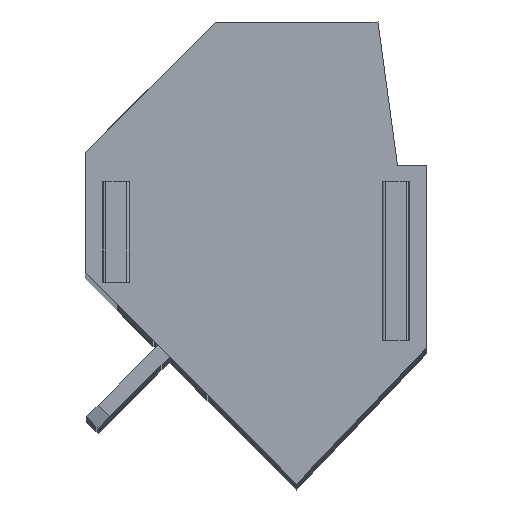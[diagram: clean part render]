
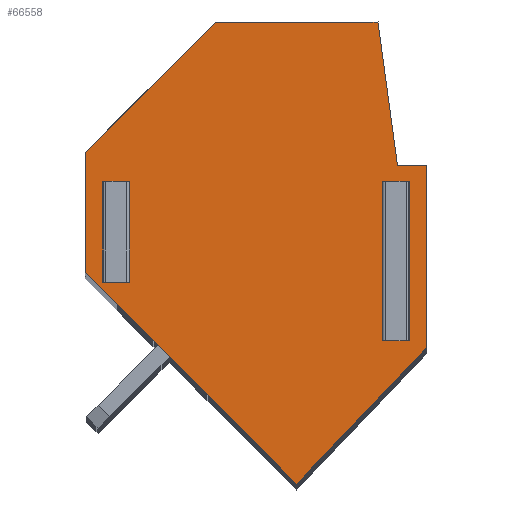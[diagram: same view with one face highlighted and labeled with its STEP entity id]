
A CAD part, top view. The second image highlights one B-rep face of the part: STEP entity #66558.
In plain terms, the highlighted planar face has unit normal (0, 0, 1).
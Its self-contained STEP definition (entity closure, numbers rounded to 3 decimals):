
#17520 = DIRECTION ( 'NONE',  ( 0.707, -0.707, 0. ) ) ;
#17521 = VECTOR ( 'NONE', #17520, 1000. ) ;
#17522 = CARTESIAN_POINT ( 'NONE',  ( -8.683, -2.307, 0. ) ) ;
#17523 = LINE ( 'NONE', #17522, #17521 ) ;
#17574 = CARTESIAN_POINT ( 'NONE',  ( -8.683, -2.307, 0. ) ) ;
#17730 = DIRECTION ( 'NONE',  ( 0., 1., 0. ) ) ;
#17731 = VECTOR ( 'NONE', #17730, 1000. ) ;
#17732 = CARTESIAN_POINT ( 'NONE',  ( 1.817, -8.807, 0. ) ) ;
#17733 = LINE ( 'NONE', #17732, #17731 ) ;
#17746 = DIRECTION ( 'NONE',  ( 0., -1., 0. ) ) ;
#17747 = VECTOR ( 'NONE', #17746, 1000. ) ;
#17749 = CARTESIAN_POINT ( 'NONE',  ( -8.683, -1.707, 0. ) ) ;
#17750 = LINE ( 'NONE', #17749, #17747 ) ;
#17831 = CARTESIAN_POINT ( 'NONE',  ( -8.683, 1.393, 0. ) ) ;
#23904 = VERTEX_POINT ( 'NONE', #79474 ) ;
#23972 = EDGE_CURVE ( 'NONE', #23996, #24105, #79537, .T. ) ;
#23996 = VERTEX_POINT ( 'NONE', #79590 ) ;
#24001 = EDGE_CURVE ( 'NONE', #24003, #23904, #79588, .T. ) ;
#24003 = VERTEX_POINT ( 'NONE', #79584 ) ;
#24015 = VERTEX_POINT ( 'NONE', #79567 ) ;
#24019 = EDGE_CURVE ( 'NONE', #24020, #24015, #79633, .T. ) ;
#24020 = VERTEX_POINT ( 'NONE', #79629 ) ;
#24051 = VERTEX_POINT ( 'NONE', #79658 ) ;
#24057 = VERTEX_POINT ( 'NONE', #79653 ) ;
#24059 = EDGE_CURVE ( 'NONE', #24060, #24057, #79652, .T. ) ;
#24060 = VERTEX_POINT ( 'NONE', #79648 ) ;
#24080 = EDGE_CURVE ( 'NONE', #24105, #24020, #79637, .T. ) ;
#24091 = EDGE_CURVE ( 'NONE', #24015, #23996, #79691, .T. ) ;
#24105 = VERTEX_POINT ( 'NONE', #79677 ) ;
#24136 = VERTEX_POINT ( 'NONE', #79717 ) ;
#24138 = EDGE_CURVE ( 'NONE', #24139, #24136, #79716, .T. ) ;
#24139 = VERTEX_POINT ( 'NONE', #79712 ) ;
#24150 = EDGE_CURVE ( 'NONE', #24170, #24051, #79763, .T. ) ;
#24166 = EDGE_CURVE ( 'NONE', #24051, #24060, #79752, .T. ) ;
#24170 = VERTEX_POINT ( 'NONE', #79740 ) ;
#24175 = EDGE_CURVE ( 'NONE', #24057, #24170, #79739, .T. ) ;
#25724 = CARTESIAN_POINT ( 'NONE',  ( -4.683, 5.393, 0. ) ) ;
#25726 = DIRECTION ( 'NONE',  ( -0.707, -0.707, 0. ) ) ;
#25727 = VECTOR ( 'NONE', #25726, 1000. ) ;
#25729 = CARTESIAN_POINT ( 'NONE',  ( -4.683, 5.393, 0. ) ) ;
#25731 = LINE ( 'NONE', #25729, #25727 ) ;
#28137 = VECTOR ( 'NONE', #28285, 1000. ) ;
#28139 = CARTESIAN_POINT ( 'NONE',  ( -4.683, 5.393, 0. ) ) ;
#28140 = LINE ( 'NONE', #28139, #28137 ) ;
#28146 = CARTESIAN_POINT ( 'NONE',  ( 0.317, 5.393, 0. ) ) ;
#28147 = DIRECTION ( 'NONE',  ( 0.135, -0.991, 0. ) ) ;
#28149 = VECTOR ( 'NONE', #28147, 1000. ) ;
#28151 = CARTESIAN_POINT ( 'NONE',  ( 0.617, 3.193, 0. ) ) ;
#28153 = LINE ( 'NONE', #28151, #28149 ) ;
#28259 = DIRECTION ( 'NONE',  ( 1., 0., 0. ) ) ;
#28261 = DIRECTION ( 'NONE',  ( 0., 0., 1. ) ) ;
#28263 = CARTESIAN_POINT ( 'NONE',  ( -8.683, -8.807, 0. ) ) ;
#28264 = AXIS2_PLACEMENT_3D ( 'NONE', #28263, #28261, #28259 ) ;
#28266 = PLANE ( 'NONE',  #28264 ) ;
#28271 = FACE_OUTER_BOUND ( 'NONE', #66545, .T. ) ;
#28272 = FACE_BOUND ( 'NONE', #66472, .T. ) ;
#28274 = FACE_BOUND ( 'NONE', #66559, .T. ) ;
#28285 = DIRECTION ( 'NONE',  ( 1., 0., 0. ) ) ;
#63983 = EDGE_CURVE ( 'NONE', #63984, #24003, #17523, .T. ) ;
#63984 = VERTEX_POINT ( 'NONE', #17574 ) ;
#64138 = EDGE_CURVE ( 'NONE', #23904, #24139, #17733, .T. ) ;
#64226 = EDGE_CURVE ( 'NONE', #64250, #63984, #17750, .T. ) ;
#64250 = VERTEX_POINT ( 'NONE', #17831 ) ;
#65811 = EDGE_CURVE ( 'NONE', #65812, #64250, #25731, .T. ) ;
#65812 = VERTEX_POINT ( 'NONE', #25724 ) ;
#66471 = ORIENTED_EDGE ( 'NONE', *, *, #24059, .T. ) ;
#66472 = EDGE_LOOP ( 'NONE', ( #66541, #66542, #66543, #66544 ) ) ;
#66526 = ORIENTED_EDGE ( 'NONE', *, *, #63983, .T. ) ;
#66528 = ORIENTED_EDGE ( 'NONE', *, *, #24001, .T. ) ;
#66529 = ORIENTED_EDGE ( 'NONE', *, *, #64138, .T. ) ;
#66530 = ORIENTED_EDGE ( 'NONE', *, *, #24138, .T. ) ;
#66540 = ORIENTED_EDGE ( 'NONE', *, *, #24175, .T. ) ;
#66541 = ORIENTED_EDGE ( 'NONE', *, *, #23972, .T. ) ;
#66542 = ORIENTED_EDGE ( 'NONE', *, *, #24080, .T. ) ;
#66543 = ORIENTED_EDGE ( 'NONE', *, *, #24019, .T. ) ;
#66544 = ORIENTED_EDGE ( 'NONE', *, *, #24091, .T. ) ;
#66545 = EDGE_LOOP ( 'NONE', ( #66546, #66549, #66551, #66552, #66526, #66528, #66529, #66530 ) ) ;
#66546 = ORIENTED_EDGE ( 'NONE', *, *, #66547, .F. ) ;
#66547 = EDGE_CURVE ( 'NONE', #66548, #24136, #28153, .T. ) ;
#66548 = VERTEX_POINT ( 'NONE', #28146 ) ;
#66549 = ORIENTED_EDGE ( 'NONE', *, *, #66550, .F. ) ;
#66550 = EDGE_CURVE ( 'NONE', #65812, #66548, #28140, .T. ) ;
#66551 = ORIENTED_EDGE ( 'NONE', *, *, #65811, .T. ) ;
#66552 = ORIENTED_EDGE ( 'NONE', *, *, #64226, .T. ) ;
#66558 = ADVANCED_FACE ( 'NONE', ( #28274, #28272, #28271 ), #28266, .T. ) ;
#66559 = EDGE_LOOP ( 'NONE', ( #66560, #66561, #66471, #66540 ) ) ;
#66560 = ORIENTED_EDGE ( 'NONE', *, *, #24150, .T. ) ;
#66561 = ORIENTED_EDGE ( 'NONE', *, *, #24166, .T. ) ;
#79474 = CARTESIAN_POINT ( 'NONE',  ( 1.817, -4.607, 0. ) ) ;
#79534 = DIRECTION ( 'NONE',  ( 0., 1., 0. ) ) ;
#79535 = VECTOR ( 'NONE', #79534, 1000. ) ;
#79536 = CARTESIAN_POINT ( 'NONE',  ( 0.667, -1.707, 0. ) ) ;
#79537 = LINE ( 'NONE', #79536, #79535 ) ;
#79567 = CARTESIAN_POINT ( 'NONE',  ( 1.067, -4.407, 0. ) ) ;
#79584 = CARTESIAN_POINT ( 'NONE',  ( -2.183, -8.807, 0. ) ) ;
#79585 = DIRECTION ( 'NONE',  ( 0.69, 0.724, 0. ) ) ;
#79586 = VECTOR ( 'NONE', #79585, 1000. ) ;
#79587 = CARTESIAN_POINT ( 'NONE',  ( -2.183, -8.807, 0. ) ) ;
#79588 = LINE ( 'NONE', #79587, #79586 ) ;
#79590 = CARTESIAN_POINT ( 'NONE',  ( 0.667, -4.407, 0. ) ) ;
#79629 = CARTESIAN_POINT ( 'NONE',  ( 1.067, 0.493, 0. ) ) ;
#79630 = DIRECTION ( 'NONE',  ( 0., -1., 0. ) ) ;
#79631 = VECTOR ( 'NONE', #79630, 1000. ) ;
#79632 = CARTESIAN_POINT ( 'NONE',  ( 1.067, -1.707, 0. ) ) ;
#79633 = LINE ( 'NONE', #79632, #79631 ) ;
#79634 = DIRECTION ( 'NONE',  ( 1., 0., 0. ) ) ;
#79635 = VECTOR ( 'NONE', #79634, 1000. ) ;
#79636 = CARTESIAN_POINT ( 'NONE',  ( -3.433, 0.493, 0. ) ) ;
#79637 = LINE ( 'NONE', #79636, #79635 ) ;
#79648 = CARTESIAN_POINT ( 'NONE',  ( -7.933, 0.493, 0. ) ) ;
#79649 = DIRECTION ( 'NONE',  ( 1., 0., 0. ) ) ;
#79650 = VECTOR ( 'NONE', #79649, 1000. ) ;
#79651 = CARTESIAN_POINT ( 'NONE',  ( -3.433, 0.493, 0. ) ) ;
#79652 = LINE ( 'NONE', #79651, #79650 ) ;
#79653 = CARTESIAN_POINT ( 'NONE',  ( -7.533, 0.493, 0. ) ) ;
#79658 = CARTESIAN_POINT ( 'NONE',  ( -7.933, -2.607, 0. ) ) ;
#79677 = CARTESIAN_POINT ( 'NONE',  ( 0.667, 0.493, 0. ) ) ;
#79688 = DIRECTION ( 'NONE',  ( -1., 0., 0. ) ) ;
#79689 = VECTOR ( 'NONE', #79688, 1000. ) ;
#79690 = CARTESIAN_POINT ( 'NONE',  ( -3.433, -4.407, 0. ) ) ;
#79691 = LINE ( 'NONE', #79690, #79689 ) ;
#79712 = CARTESIAN_POINT ( 'NONE',  ( 1.817, 0.993, 0. ) ) ;
#79713 = DIRECTION ( 'NONE',  ( -1., 0., 0. ) ) ;
#79714 = VECTOR ( 'NONE', #79713, 1000. ) ;
#79715 = CARTESIAN_POINT ( 'NONE',  ( -3.433, 0.993, 0. ) ) ;
#79716 = LINE ( 'NONE', #79715, #79714 ) ;
#79717 = CARTESIAN_POINT ( 'NONE',  ( 0.917, 0.993, 0. ) ) ;
#79736 = DIRECTION ( 'NONE',  ( 0., -1., 0. ) ) ;
#79737 = VECTOR ( 'NONE', #79736, 1000. ) ;
#79738 = CARTESIAN_POINT ( 'NONE',  ( -7.533, -1.707, 0. ) ) ;
#79739 = LINE ( 'NONE', #79738, #79737 ) ;
#79740 = CARTESIAN_POINT ( 'NONE',  ( -7.533, -2.607, 0. ) ) ;
#79749 = DIRECTION ( 'NONE',  ( 0., 1., 0. ) ) ;
#79750 = VECTOR ( 'NONE', #79749, 1000. ) ;
#79751 = CARTESIAN_POINT ( 'NONE',  ( -7.933, -1.707, 0. ) ) ;
#79752 = LINE ( 'NONE', #79751, #79750 ) ;
#79760 = DIRECTION ( 'NONE',  ( -1., 0., 0. ) ) ;
#79761 = VECTOR ( 'NONE', #79760, 1000. ) ;
#79762 = CARTESIAN_POINT ( 'NONE',  ( -3.433, -2.607, 0. ) ) ;
#79763 = LINE ( 'NONE', #79762, #79761 ) ;
